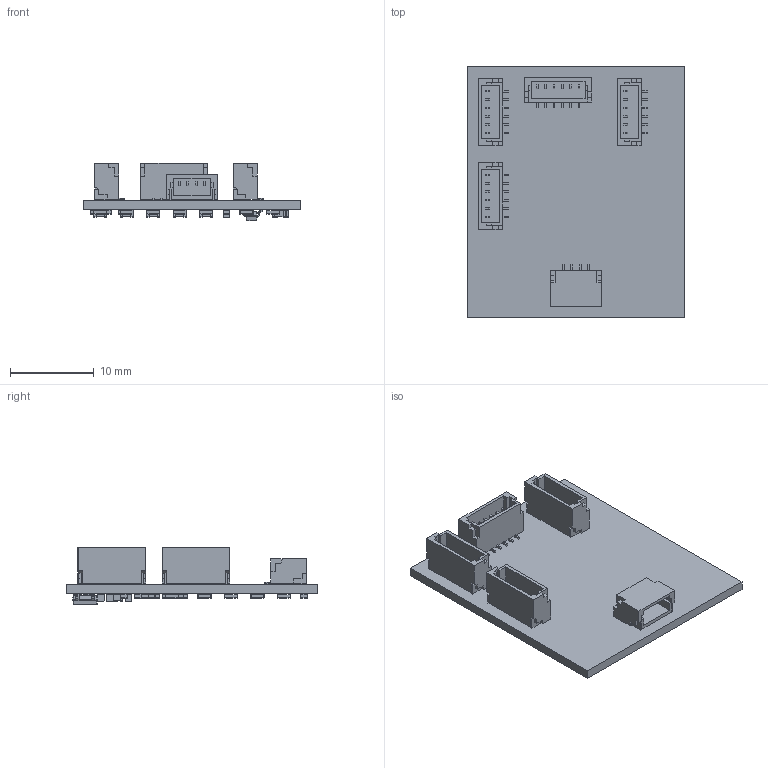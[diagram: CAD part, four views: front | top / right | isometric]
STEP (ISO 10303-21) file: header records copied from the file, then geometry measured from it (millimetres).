
FILE_DESCRIPTION(('KiCad electronic assembly'),'2;1');
FILE_NAME('PoseDoll_RevO4_distal4_rs485.step','2026-09-24T05:32:44',( 'Pcbnew'),('Kicad'),'Open CASCADE STEP processor 7.9', 'KiCad to STEP converter','Unknown');
FILE_SCHEMA(('AUTOMOTIVE_DESIGN { 1 0 10303 214 1 1 1 1 }'));
Length unit declared in the file: millimetre
Products named in the file (14): PoseDoll_RevO4_distal4_rs485 1; JST_SH_BM06B-SRSS-TB_1x06-1MP_P1.00mm_Vertical; JST_SH_SM04B-SRSS-TB_1x04-1MP_P1.00mm_Horizontal; R_0603_1608Metric; C_0603_1608Metric; SOT-23; SOT-583-8; PoseDoll_RevO4_distal4_rs485_PCB
Assembly tree (63 placements, depth 3):
  PoseDoll_RevO4_distal4_rs485 1
    JST_SH_BM06B-SRSS-TB_1x06-1MP_P1.00mm_Vertical  x4
      JST_SH_BM06B-SRSS-TB_1x06-1MP_P1.00mm_Vertical
    JST_SH_SM04B-SRSS-TB_1x04-1MP_P1.00mm_Horizontal
      JST_SH_SM04B-SRSS-TB_1x04-1MP_P1.00mm_Horizontal
    R_0603_1608Metric  x40
      R_0603_1608Metric
    C_0603_1608Metric  x9
      C_0603_1608Metric
    SOT-23
      SOT-23
    SOT-583-8
      SOT-583-8
    PoseDoll_RevO4_distal4_rs485_PCB
Bounding box: 26 x 30 x 6.8 mm (x, y, z)
Volume: 1171.4 mm3; surface area: 2963.9 mm2
Topology: 57 solids, 57 shells, 1994 faces, 5224 edges, 3397 vertices
Faces by surface type: plane 1521, cylinder 441, bspline 32
Full cylindrical faces by diameter (mm): 0.1 x1
Entity records: 16197 total; most frequent: CARTESIAN_POINT 2390, ORIENTED_EDGE 2096, DIRECTION 1941, EDGE_CURVE 1048, LINE 933, VECTOR 933, VERTEX_POINT 673, AXIS2_PLACEMENT_3D 504
